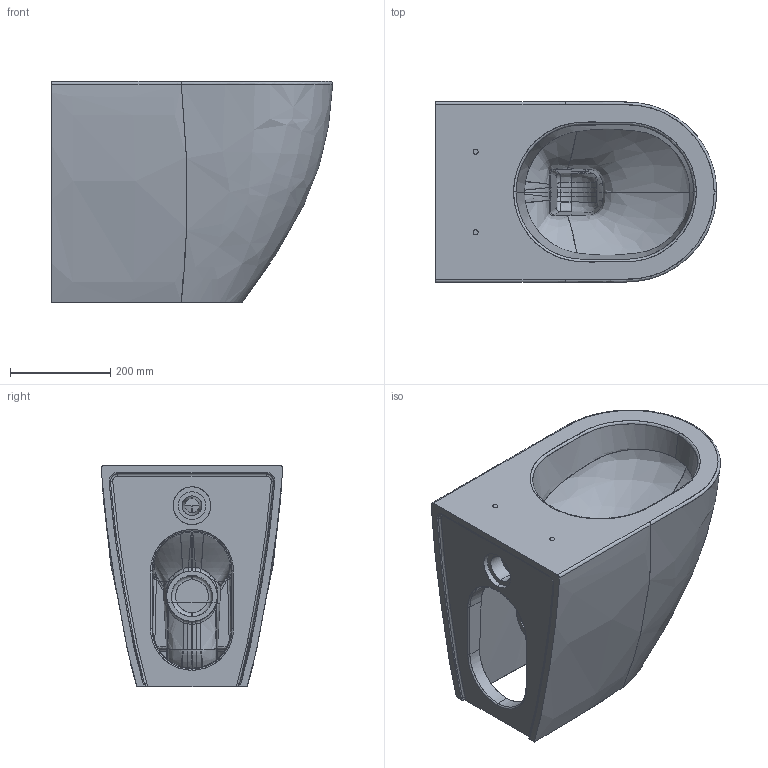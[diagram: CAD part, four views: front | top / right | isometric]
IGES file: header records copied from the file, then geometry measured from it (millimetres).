
Start section: START RECORD GO HERE.
Global section: file name: Vaso DREAM terra.igs; native system: DASSAULT SYSTEMES CATIA V5 R19 - www.3ds.com; preprocessor: CATIA Version 5 Release 19 SP 5 ; author: LUCA; organization: PCVILLALAGO; date: 20150126.182321; units: millimetre
Bounding box: 559.83 x 359.66 x 439.99 mm (x, y, z)
Surface area: 1542839.2 mm2 (no closed solid volume)
Topology: 0 solids, 0 shells, 384 faces, 2746 edges, 2730 vertices
Faces by surface type: bspline 322, revolution 34, plane 28
